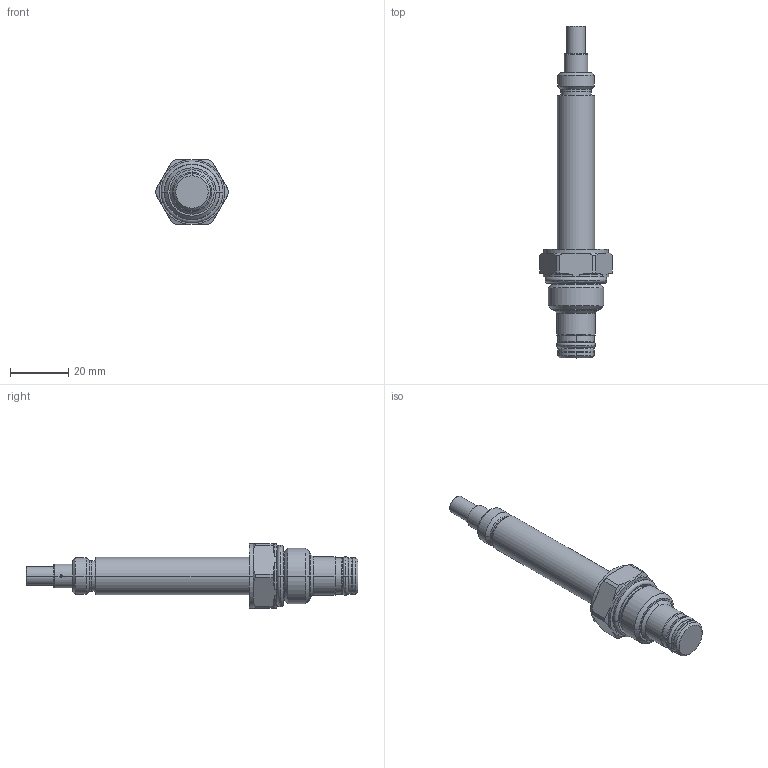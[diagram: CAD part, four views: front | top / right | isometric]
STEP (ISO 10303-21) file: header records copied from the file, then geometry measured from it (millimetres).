
FILE_DESCRIPTION((''),'2;1');
FILE_NAME('5003481_SW0001','2009-02-24T',('JCS'),(''),'PRO/ENGINEER BY PARAMETRIC TECHNOLOGY CORPORATION, 2008010','PRO/ENGINEER BY PARAMETRIC TECHNOLOGY CORPORATION, 2008010','');
FILE_SCHEMA(('CONFIG_CONTROL_DESIGN'));
Length unit declared in the file: inch
Products named in the file (1): 5003481_SW0001
Bounding box: 24.94 x 113.51 x 22.23 mm (x, y, z)
Volume: 17347.9 mm3; surface area: 6552.4 mm2
Topology: 4 solids, 4 shells, 142 faces, 317 edges, 186 vertices
Faces by surface type: cylinder 50, cone 42, plane 20, revolution 16, torus 14
Entity records: 4417 total; most frequent: CARTESIAN_POINT 1199, DIRECTION 701, ORIENTED_EDGE 630, EDGE_CURVE 315, AXIS2_PLACEMENT_3D 290, VERTEX_POINT 186, CIRCLE 164, EDGE_LOOP 153
